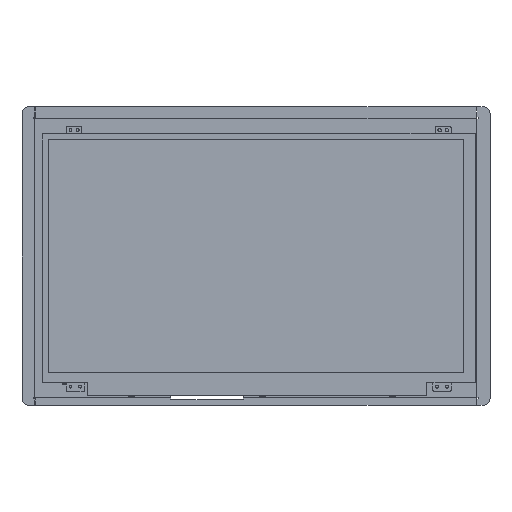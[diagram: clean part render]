
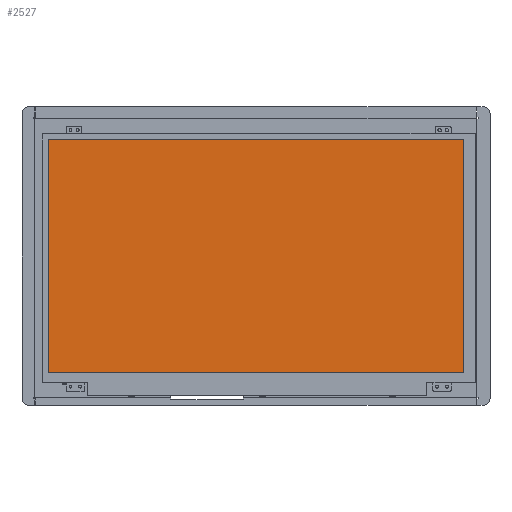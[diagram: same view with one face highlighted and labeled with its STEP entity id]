
A CAD part, top view. The second image highlights one B-rep face of the part: STEP entity #2527.
In plain terms, the highlighted planar face has unit normal (0, 0, 1).
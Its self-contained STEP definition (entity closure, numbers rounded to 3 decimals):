
#710=DIRECTION('',(0.,1.,0.));
#711=VECTOR('',#710,193.59);
#712=CARTESIAN_POINT('',(-174.28,-89.35,-0.15));
#713=LINE('',#712,#711);
#714=DIRECTION('',(1.,0.,0.));
#715=VECTOR('',#714,344.16);
#716=CARTESIAN_POINT('',(-174.28,104.24,-0.15));
#717=LINE('',#716,#715);
#718=DIRECTION('',(0.,-1.,0.));
#719=VECTOR('',#718,193.59);
#720=CARTESIAN_POINT('',(169.88,104.24,-0.15));
#721=LINE('',#720,#719);
#722=DIRECTION('',(-1.,0.,0.));
#723=VECTOR('',#722,344.16);
#724=CARTESIAN_POINT('',(169.88,-89.35,-0.15));
#725=LINE('',#724,#723);
#1234=CARTESIAN_POINT('',(-174.28,104.24,-0.15));
#1235=VERTEX_POINT('',#1234);
#1236=CARTESIAN_POINT('',(-174.28,-89.35,-0.15));
#1237=VERTEX_POINT('',#1236);
#1238=CARTESIAN_POINT('',(169.88,104.24,-0.15));
#1239=VERTEX_POINT('',#1238);
#1240=CARTESIAN_POINT('',(169.88,-89.35,-0.15));
#1241=VERTEX_POINT('',#1240);
#2516=CARTESIAN_POINT('',(-179.75,-97.75,-0.15));
#2517=DIRECTION('',(0.,0.,1.));
#2518=DIRECTION('',(1.,0.,0.));
#2519=AXIS2_PLACEMENT_3D('',#2516,#2517,#2518);
#2520=PLANE('',#2519);
#2521=ORIENTED_EDGE('',*,*,#2440,.T.);
#2522=ORIENTED_EDGE('',*,*,#2462,.T.);
#2523=ORIENTED_EDGE('',*,*,#2483,.T.);
#2524=ORIENTED_EDGE('',*,*,#2503,.T.);
#2525=EDGE_LOOP('',(#2521,#2522,#2523,#2524));
#2526=FACE_OUTER_BOUND('',#2525,.F.);
#2440=EDGE_CURVE('',#1237,#1235,#713,.T.);
#2462=EDGE_CURVE('',#1235,#1239,#717,.T.);
#2483=EDGE_CURVE('',#1239,#1241,#721,.T.);
#2503=EDGE_CURVE('',#1241,#1237,#725,.T.);
#2527=ADVANCED_FACE('',(#2526),#2520,.T.);
